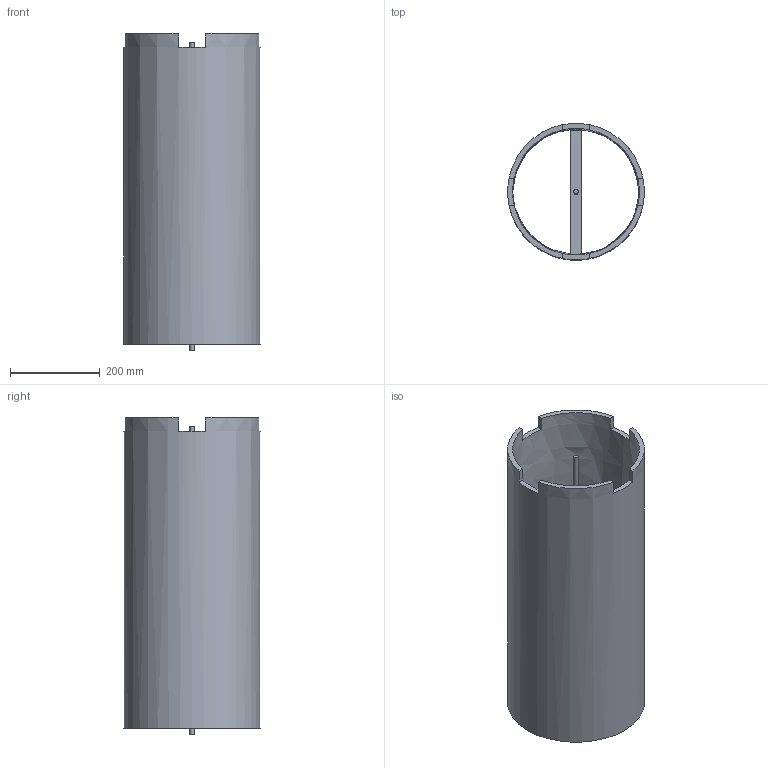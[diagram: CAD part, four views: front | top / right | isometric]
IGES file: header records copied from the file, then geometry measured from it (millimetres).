
Start section: Data from Parasolid IGES Translator 20.0.26, Copyright(c) 2006 Siemens P LM Software. All Rights Reserved.
Global section: file name: 45837.igs; native system: By Siemens PLM Incorporated; preprocessor: XPlus GENERIC/IGES 20.0.26; author: Noname; organization: Noname; date: 20210125.173808; units: millimetre
Bounding box: 305 x 305 x 706 mm (x, y, z)
Surface area: 1327189.5 mm2 (no closed solid volume)
Topology: 0 solids, 0 shells, 35 faces, 192 edges, 187 vertices
Faces by surface type: extrusion 31, revolution 4
